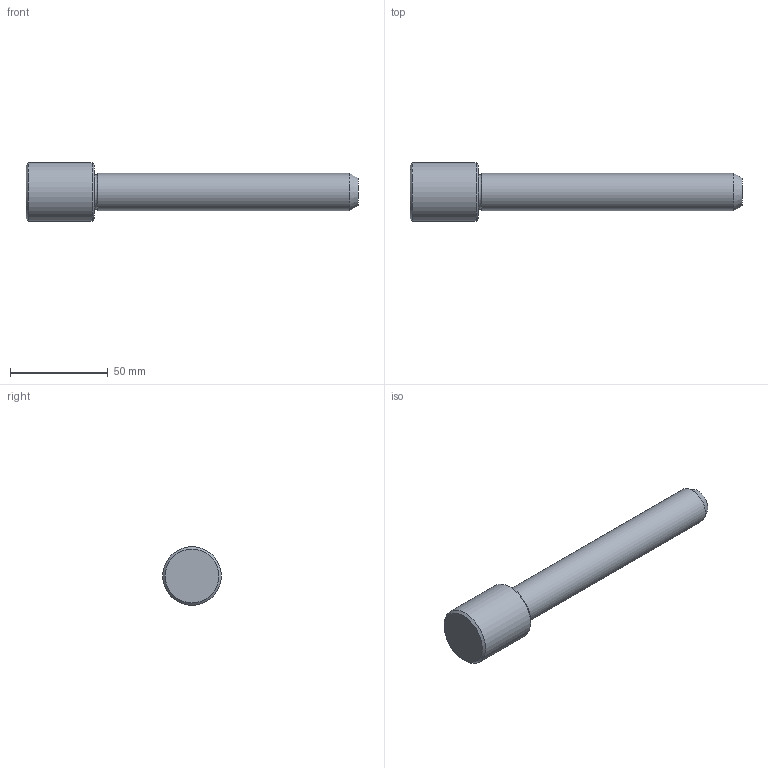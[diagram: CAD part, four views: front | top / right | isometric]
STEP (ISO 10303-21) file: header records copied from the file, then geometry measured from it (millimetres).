
FILE_DESCRIPTION(/* description */ ('Impex Ready, www.impex-ready.pl'),/* implementation_level */ '2;1');
FILE_NAME(/* name */ 'C:\Users\VIKKY\Nextcloud\SM\projekt 10 - części na stronę internetową\Pliki_3D_new\286 Słupy C3\286 C3_STEP\C319170.ipt.step',/* time_stamp */ '2021-12-21T12:01:22+01:00',/* author */ ('SM'),/* organization */ (''),/* preprocessor_version */ 'ST-DEVELOPER v18.1',/* originating_system */ 'Autodesk Inventor 2021',/* authorisation */ '');
FILE_SCHEMA (('AUTOMOTIVE_DESIGN { 1 0 10303 214 3 1 1 }'));
Length unit declared in the file: millimetre
Products named in the file (1): C319170
Bounding box: 170 x 30 x 30 mm (x, y, z)
Volume: 62549.7 mm3; surface area: 12563.3 mm2
Topology: 1 solids, 1 shells, 9 faces, 18 edges, 12 vertices
Faces by surface type: cone 3, plane 3, cylinder 2, torus 1
Full cylindrical faces by diameter (mm): 19 x1, 30 x1
Entity records: 313 total; most frequent: DIRECTION 51, CARTESIAN_POINT 40, ORIENTED_EDGE 36, AXIS2_PLACEMENT_3D 23, EDGE_CURVE 18, CIRCLE 13, VERTEX_POINT 12, EDGE_LOOP 10
